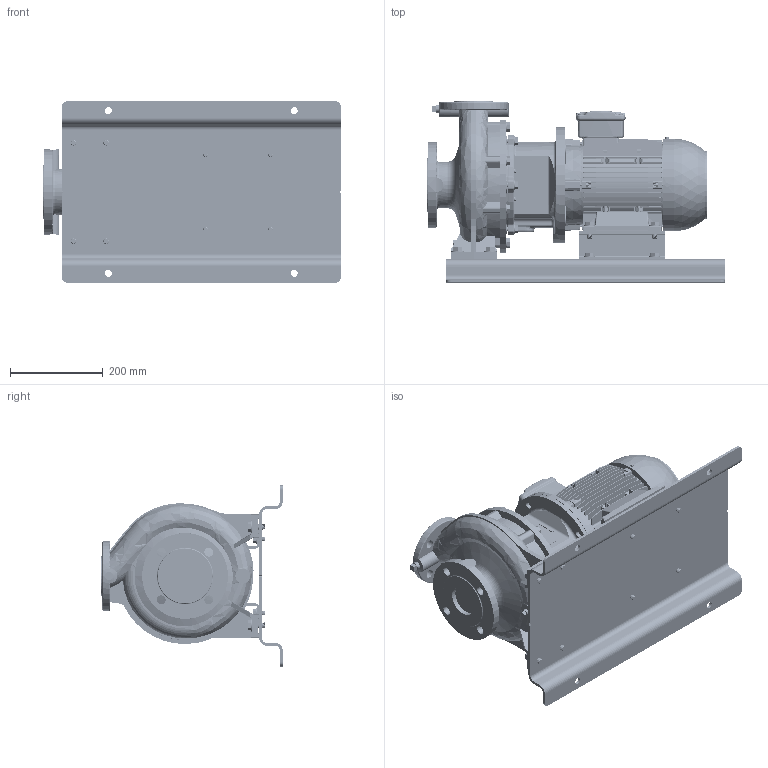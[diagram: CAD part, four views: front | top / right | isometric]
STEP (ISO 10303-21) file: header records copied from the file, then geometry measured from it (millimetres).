
FILE_DESCRIPTION (( 'STEP AP214' ), '1' );
FILE_NAME ('GSD4 40-200_2.2_(100L)_W21_BP.STEP', '2024-10-04T02:06:15', ( '' ), ( '' ), 'SwSTEP 2.0', 'SolidWorks 2019', '' );
FILE_SCHEMA (( 'AUTOMOTIVE_DESIGN' ));
Length unit declared in the file: millimetre
Products named in the file (22): Parametric bolt and washer_SFT-A249B; 100L ALIE3_W21T_B35; Parametric Flat Washer_M12; Parametric bolt and washer_SFT-A299B; Parametric bolt and washer_SFT-A253B; 40-200-100L_______; N3S3 GSDA-332 F1-1832904-00; Parametric bolt_SFT-A299B; Parametric Flat Washer_M10; Parametric bolt_SFT-A253B; GSD4 40-200_2.2_(100L)_W21_BP; 140 x 60 Side - 271472021; Parametric bolt_SFT-A249B
Assembly tree (41 placements, depth 3):
  GSD4 40-200_2.2_(100L)_W21_BP
    40-200-100L_______
    100L ALIE3_W21T_B35
    N3S3 GSDA-332 F1-1832904-00
    140 x 60 Side - 271472021  x2
    Parametric bolt and washer_SFT-A299B
      Parametric bolt_SFT-A299B
      Parametric Flat Washer_M12
    Parametric bolt and washer_SFT-A299B
      Parametric bolt_SFT-A299B
      Parametric Flat Washer_M12
    Parametric bolt and washer_SFT-A299B
      Parametric bolt_SFT-A299B
      Parametric Flat Washer_M12
    Parametric bolt and washer_SFT-A299B
      Parametric bolt_SFT-A299B
      Parametric Flat Washer_M12
    Parametric bolt and washer_SFT-A253B
      Parametric bolt_SFT-A253B
      Parametric Flat Washer_M10
    Parametric bolt and washer_SFT-A253B
      Parametric bolt_SFT-A253B
      Parametric Flat Washer_M10
    Parametric bolt and washer_SFT-A253B
      Parametric bolt_SFT-A253B
      Parametric Flat Washer_M10
    Parametric bolt and washer_SFT-A253B
      Parametric bolt_SFT-A253B
      Parametric Flat Washer_M10
    Parametric bolt and washer_SFT-A249B
      Parametric bolt_SFT-A249B
      Parametric Flat Washer_M10
    Parametric bolt and washer_SFT-A249B
      Parametric bolt_SFT-A249B
      Parametric Flat Washer_M10
    Parametric bolt and washer_SFT-A249B
      Parametric bolt_SFT-A249B
      Parametric Flat Washer_M10
    Parametric bolt and washer_SFT-A249B
      Parametric bolt_SFT-A249B
      Parametric Flat Washer_M10
Bounding box: 640 x 390 x 390 mm (x, y, z)
Volume: 19192855.6 mm3; surface area: 1988586.7 mm2
Topology: 32 solids, 32 shells, 4394 faces, 11470 edges, 7384 vertices
Faces by surface type: plane 2408, cylinder 1200, torus 318, bspline 247, cone 203, sphere 18
Entity records: 182538 total; most frequent: CARTESIAN_POINT 88598, ORIENTED_EDGE 20262, DIRECTION 18175, EDGE_CURVE 10131, VERTEX_POINT 6528, VECTOR 6315, LINE 6315, AXIS2_PLACEMENT_3D 5930
